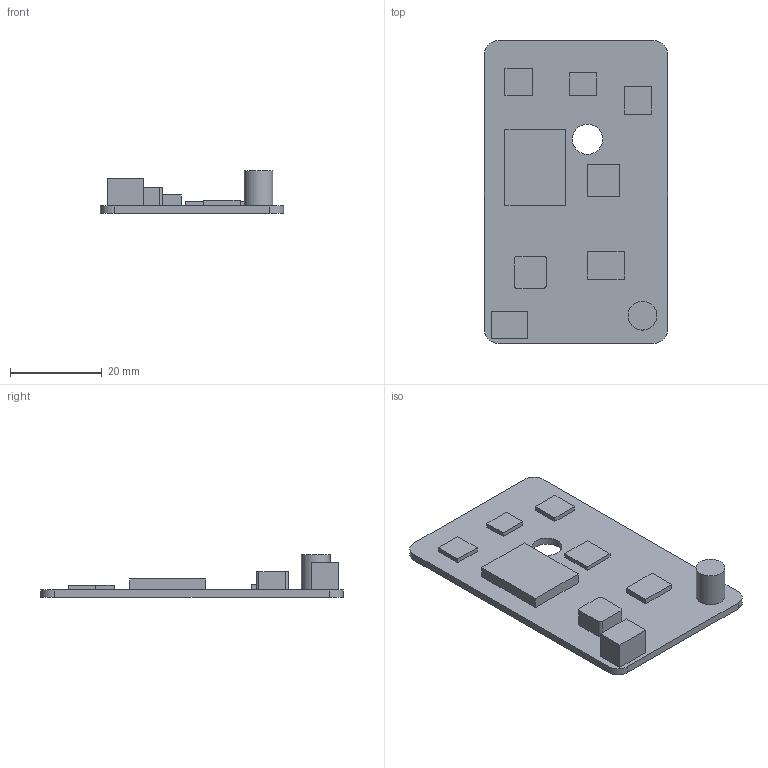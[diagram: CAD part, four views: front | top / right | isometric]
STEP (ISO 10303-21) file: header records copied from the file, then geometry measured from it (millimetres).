
FILE_DESCRIPTION(('Open CASCADE Model'),'2;1');
FILE_NAME('Open CASCADE Shape Model','2026-11-01T16:34:15',('Author'),( 'Open CASCADE'),'Open CASCADE STEP processor 8.0','build123d', 'Unknown');
FILE_SCHEMA(('AUTOMOTIVE_DESIGN { 1 0 10303 214 1 1 1 1 }'));
Length unit declared in the file: millimetre
Products named in the file (1): SOLID
Bounding box: 40 x 66 x 9.3 mm (x, y, z)
Volume: 5609.3 mm3; surface area: 6260.4 mm2
Topology: 1 solids, 1 shells, 57 faces, 138 edges, 92 vertices
Faces by surface type: plane 47, cylinder 10
Full cylindrical faces by diameter (mm): 6.3 x1, 6.6 x1
Entity records: 3484 total; most frequent: CARTESIAN_POINT 612, DIRECTION 542, LINE 374, VECTOR 374, ORIENTED_EDGE 276, PCURVE 276, DEFINITIONAL_REPRESENTATION 276, EDGE_CURVE 138
